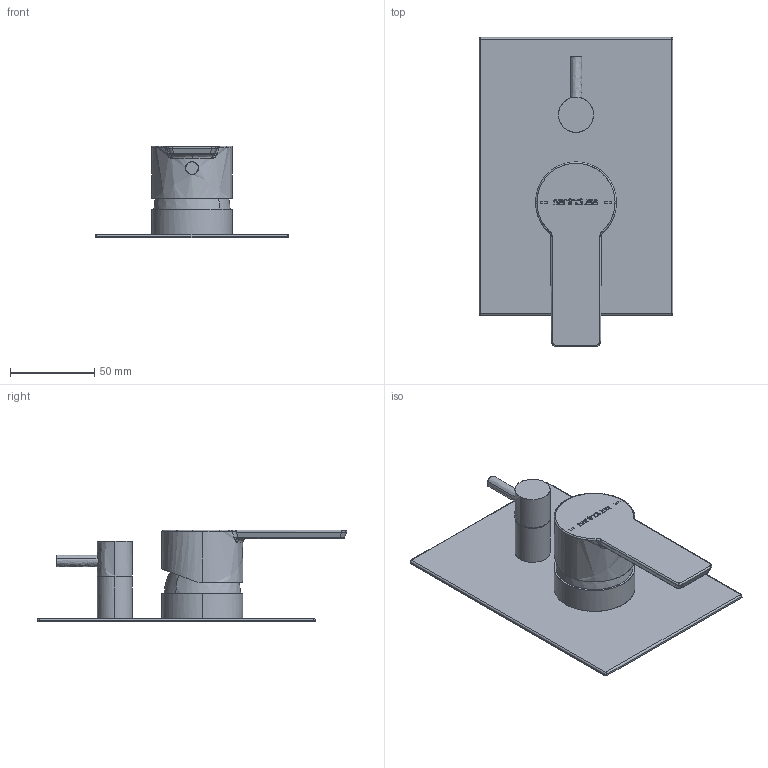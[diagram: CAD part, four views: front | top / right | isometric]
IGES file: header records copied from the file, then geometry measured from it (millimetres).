
Start section: SolidWorks IGES file using NURBS representation for surfaces
Global section: file name: \\IBMGRAU\Projectos\01-TORNEIRAS\MASTER 40\5257601C - mist. encast. 5v esp. retang\biblioteca 3D\5257601C_igs.IGS; native system: SolidWorks 2019; preprocessor: SolidWorks 2019; author: Julio; date: 190327.172827; units: millimetre
Bounding box: 115 x 183.66 x 54.4 mm (x, y, z)
Surface area: 54879 mm2 (no closed solid volume)
Topology: 0 solids, 0 shells, 235 faces, 2313 edges, 2305 vertices
Faces by surface type: bspline 235
